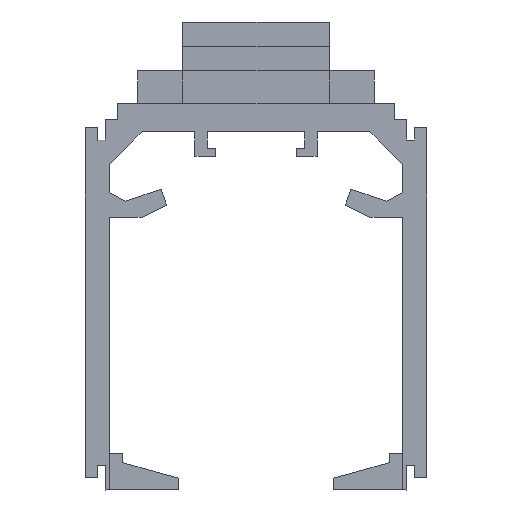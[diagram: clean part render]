
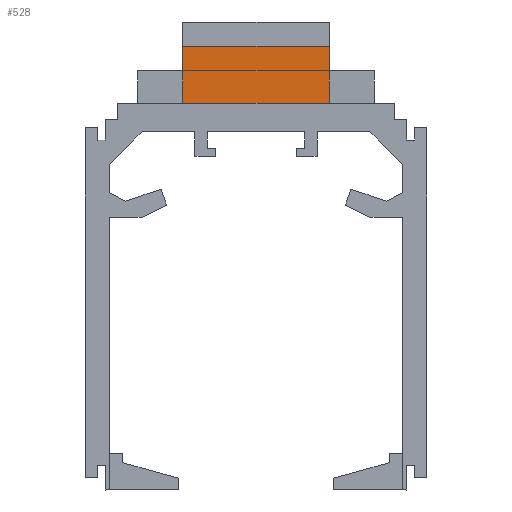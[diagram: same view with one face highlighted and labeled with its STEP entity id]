
A CAD part, left-side view. The second image highlights one B-rep face of the part: STEP entity #528.
In plain terms, the highlighted planar face has unit normal (-1, 0, 0).
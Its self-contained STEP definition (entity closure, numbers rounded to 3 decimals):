
#528=ADVANCED_FACE('',(#1092),#1093,.T.);
#1092=FACE_OUTER_BOUND('',#1691,.T.);
#1093=PLANE('',#1692);
#1691=EDGE_LOOP('',(#3253,#3254,#3255,#3256));
#1692=AXIS2_PLACEMENT_3D('',#3257,#3258,#3259);
#3253=ORIENTED_EDGE('',*,*,#4137,.T.);
#3254=ORIENTED_EDGE('',*,*,#4156,.F.);
#3255=ORIENTED_EDGE('',*,*,#4144,.F.);
#3256=ORIENTED_EDGE('',*,*,#4154,.F.);
#3257=CARTESIAN_POINT('',(126.5,30.0,55.5));
#3258=DIRECTION('',(-1.0,0.,0.));
#3259=DIRECTION('',(0.0,0.,-1.0));
#4137=EDGE_CURVE('',#5108,#5106,#5109,.T.);
#4144=EDGE_CURVE('',#5119,#5121,#5122,.T.);
#4154=EDGE_CURVE('',#5108,#5119,#5134,.T.);
#4156=EDGE_CURVE('',#5121,#5106,#5136,.T.);
#5106=VERTEX_POINT('',#6507);
#5108=VERTEX_POINT('',#6510);
#5109=LINE('',#6511,#6512);
#5119=VERTEX_POINT('',#6526);
#5121=VERTEX_POINT('',#6529);
#5122=LINE('',#6530,#6531);
#5134=LINE('',#6549,#6550);
#5136=LINE('',#6552,#6553);
#6507=CARTESIAN_POINT('',(126.5,30.0,47.5));
#6510=CARTESIAN_POINT('',(126.5,30.0,54.5));
#6511=CARTESIAN_POINT('',(126.5,30.0,55.5));
#6512=VECTOR('',#7298,1.0);
#6526=CARTESIAN_POINT('',(126.5,12.0,54.5));
#6529=CARTESIAN_POINT('',(126.5,12.0,47.5));
#6530=CARTESIAN_POINT('',(126.5,12.0,55.5));
#6531=VECTOR('',#7304,1.0);
#6549=CARTESIAN_POINT('',(126.5,30.0,54.5));
#6550=VECTOR('',#7311,1.0);
#6552=CARTESIAN_POINT('',(126.5,17.25,47.5));
#6553=VECTOR('',#7312,1.0);
#7298=DIRECTION('',(0.0,0.,-1.0));
#7304=DIRECTION('',(0.0,0.,-1.0));
#7311=DIRECTION('',(0.,-1.0,0.));
#7312=DIRECTION('',(0.,1.0,0.0));
